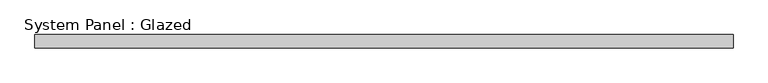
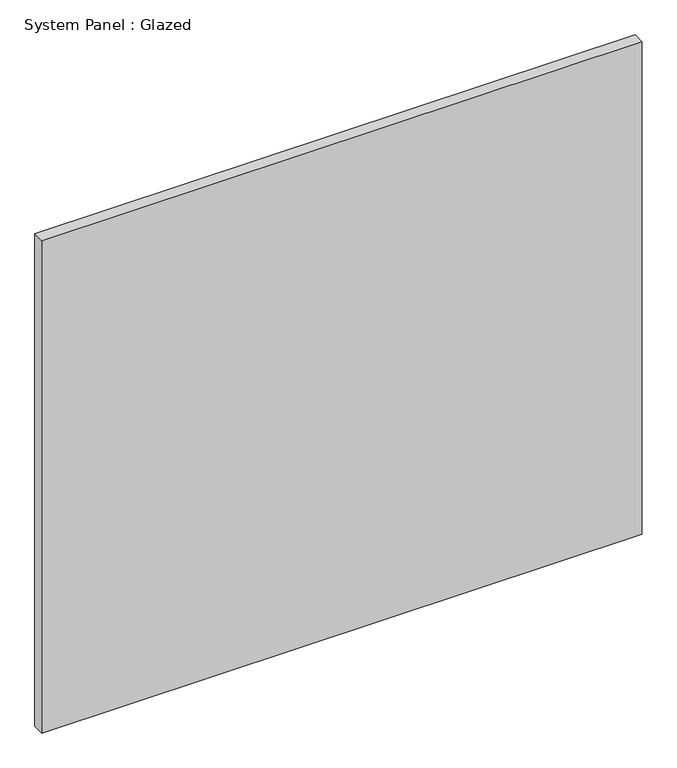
"""IFC4 building model written with IfcOpenShell, lengths in millimetres: plate geometry, System Panel : Glazed."""

import ifcopenshell
import ifcopenshell.guid

model = None  # the IFC model being written
_history = None  # IfcOwnerHistory: only IFC2X3 demands one
_inside = {}  # id of a spatial element -> (the spatial element, [elements in it])
_under = {}  # id of a project, library or spatial element -> (it, [spatial elements below it])
_declared = {}  # id of a project -> (the project, [libraries it declares])
_typed = {}  # id of a type object -> (the type object, [elements of that type])
_made_of = {}  # id of a material, layer set ... -> (it, [elements and type objects made of it])


def new_model(schema):
    """Start an empty IFC model of exactly this schema.

    Asked for "IFC4X3", IfcOpenShell would pick the latest addendum, in which some entities
    have other attributes; the version numbers below select the first issue.
    IFC2X3 requires an IfcOwnerHistory on every rooted entity: one is made here for all.
    """
    global model, _history
    if schema == "IFC4X3":
        model = ifcopenshell.file(schema_version=(4, 3, 0, 0))
    else:
        model = ifcopenshell.file(schema=schema)
    _inside.clear()
    _under.clear()
    _declared.clear()
    _typed.clear()
    _made_of.clear()
    _history = None
    if model.schema == "IFC2X3":
        org = make("IfcOrganization", Name="unknown")
        user = make(
            "IfcPersonAndOrganization",
            ThePerson=make("IfcPerson", FamilyName="unknown"),
            TheOrganization=org,
        )
        app = make(
            "IfcApplication",
            ApplicationDeveloper=org,
            Version="unknown",
            ApplicationFullName="unknown",
            ApplicationIdentifier="unknown",
        )
        _history = make(
            "IfcOwnerHistory",
            OwningUser=user,
            OwningApplication=app,
            ChangeAction="ADDED",
            CreationDate=0,
        )
    return model


def make(cls, **values):
    """One entity of the class cls with the attributes given. An attribute that is None is left unset."""
    return model.create_entity(
        cls, **{name: value for name, value in values.items() if value is not None}
    )


def rooted(cls, **values):
    """An entity with a GlobalId (a new one), such as an element, a storey or a relation."""
    return make(cls, GlobalId=ifcopenshell.guid.new(), OwnerHistory=_history, **values)


def si_unit(unit_type, name, prefix=None):
    """IfcSIUnit, for example si_unit("LENGTHUNIT", "METRE", prefix="MILLI")."""
    return make("IfcSIUnit", UnitType=unit_type, Prefix=prefix, Name=name)


def assignment(units):
    """IfcUnitAssignment: the units of a project."""
    return None if units is None else make("IfcUnitAssignment", Units=units)


def point(xyz):
    """IfcCartesianPoint."""
    return None if xyz is None else make("IfcCartesianPoint", Coordinates=xyz)


def direction(xyz):
    """IfcDirection."""
    return None if xyz is None else make("IfcDirection", DirectionRatios=xyz)


def frame(location, z_axis=None, x_axis=None):
    """IfcAxis2Placement3D, a coordinate frame: its origin and axes. An axis left out is left unset."""
    return make(
        "IfcAxis2Placement3D",
        Location=point(location),
        Axis=direction(z_axis),
        RefDirection=direction(x_axis),
    )


def origin():
    """The frame at (0, 0, 0) with its axes left unset."""
    return frame((0.0, 0.0, 0.0))


def origin_with_axes():
    """The frame at (0, 0, 0) with the z axis (0, 0, 1) and the x axis (1, 0, 0) written out."""
    return frame((0.0, 0.0, 0.0), z_axis=(0.0, 0.0, 1.0), x_axis=(1.0, 0.0, 0.0))


def place(relative_to, where):
    """IfcLocalPlacement: puts the frame where relative to a parent placement (None: the world)."""
    return make(
        "IfcLocalPlacement", PlacementRelTo=relative_to, RelativePlacement=where
    )


def context(
    kind, dimensions, precision=None, world=None, true_north=None, identifier=None
):
    """IfcGeometricRepresentationContext, for example the 3D "Model" context."""
    return make(
        "IfcGeometricRepresentationContext",
        ContextIdentifier=identifier,
        ContextType=kind,
        CoordinateSpaceDimension=dimensions,
        Precision=precision,
        WorldCoordinateSystem=world,
        TrueNorth=true_north,
    )


def project(units=None, contexts=None):
    """IfcProject with its units and contexts."""
    return rooted(
        "IfcProject",
        Name="project",
        RepresentationContexts=contexts,
        UnitsInContext=assignment(units),
    )


def spatial(cls, under=None, at=None, **own):
    """A site, building, storey or space (cls), placed at a placement, below another one or the project."""
    s = rooted(cls, ObjectPlacement=at, **own)
    if under is not None:
        _under.setdefault(under.id(), (under, []))[1].append(s)
    return s


def polyline(points):
    """IfcPolyline through the points."""
    return make("IfcPolyline", Points=[point(p) for p in points])


def outline(outer, holes=None, kind="AREA"):
    """IfcArbitraryClosedProfileDef: a profile drawn as a closed curve; with holes, ...WithVoids."""
    if holes is None:
        return make("IfcArbitraryClosedProfileDef", ProfileType=kind, OuterCurve=outer)
    return make(
        "IfcArbitraryProfileDefWithVoids",
        ProfileType=kind,
        OuterCurve=outer,
        InnerCurves=holes,
    )


def extrude(swept, where, along, depth):
    """IfcExtrudedAreaSolid: the profile swept, set in the frame where, extruded along a direction by depth."""
    return make(
        "IfcExtrudedAreaSolid",
        SweptArea=swept,
        Position=where,
        ExtrudedDirection=direction(along),
        Depth=depth,
    )


def shape(context_of_items, identifier, shape_type, items):
    """IfcShapeRepresentation: the items that make up one representation, for example the "Body"."""
    return make(
        "IfcShapeRepresentation",
        ContextOfItems=context_of_items,
        RepresentationIdentifier=identifier,
        RepresentationType=shape_type,
        Items=items,
    )


def source(mapping_origin, context_of_items, identifier, shape_type, items):
    """IfcRepresentationMap: a shape defined once, which mapped items show again and again."""
    return make(
        "IfcRepresentationMap",
        MappingOrigin=mapping_origin,
        MappedRepresentation=shape(context_of_items, identifier, shape_type, items),
    )


def transform(
    local_origin,
    x_axis=None,
    y_axis=None,
    z_axis=None,
    scale=None,
    scale2=None,
    scale3=None,
    uniform=True,
):
    """IfcCartesianTransformationOperator3D, or its non-uniform kind. x_axis, y_axis, z_axis: its Axis1, 2, 3."""
    if uniform:
        return make(
            "IfcCartesianTransformationOperator3D",
            Axis1=direction(x_axis),
            Axis2=direction(y_axis),
            LocalOrigin=point(local_origin),
            Scale=scale,
            Axis3=direction(z_axis),
        )
    return make(
        "IfcCartesianTransformationOperator3DnonUniform",
        Axis1=direction(x_axis),
        Axis2=direction(y_axis),
        LocalOrigin=point(local_origin),
        Scale=scale,
        Axis3=direction(z_axis),
        Scale2=scale2,
        Scale3=scale3,
    )


def mapped(mapping_source, mapping_target):
    """IfcMappedItem: shows the shape of a source again, moved by a transform."""
    return make(
        "IfcMappedItem", MappingSource=mapping_source, MappingTarget=mapping_target
    )


def made_of(thing, what):
    """Note that an element or type object is made of a material, layer set ...; save() writes the relation."""
    if what is not None:
        _made_of.setdefault(what.id(), (what, []))[1].append(thing)
    return thing


def element(
    cls,
    number,
    at=None,
    inside=None,
    cuts=None,
    type_object=None,
    material=None,
    context=None,
    identifier="Body",
    shape_type=None,
    held_by="IfcProductDefinitionShape",
    body=None,
    shapes=None,
    **own,
):
    """One element of the class cls, such as IfcWall. Its Tag is "e" and its number.

    at: its placement. inside: the storey or other place that contains it. cuts: it is an
    opening in that element (IfcRelVoidsElement). A single representation is given by context,
    identifier, shape_type and body (its items); several are given by shapes. held_by: the class
    of the entity that holds the representations. save() writes the other relations.
    """
    e = rooted(cls, Tag="e%d" % number, ObjectPlacement=at, **own)
    if body is not None:
        shapes = [shape(context, identifier, shape_type, body)]
    if shapes is not None:
        e.Representation = make(held_by, Representations=shapes)
    if inside is not None:
        _inside.setdefault(inside.id(), (inside, []))[1].append(e)
    if cuts is not None:
        rooted(
            "IfcRelVoidsElement", RelatingBuildingElement=cuts, RelatedOpeningElement=e
        )
    if type_object is not None:
        _typed.setdefault(type_object.id(), (type_object, []))[1].append(e)
    return made_of(e, material)


def aggregate(whole, parts):
    """IfcRelAggregates: a whole, such as a stair, and the parts it consists of."""
    return rooted("IfcRelAggregates", RelatingObject=whole, RelatedObjects=parts)


def save(model, path):
    """Write the relations noted so far, then the file.

    IfcRelAggregates (storeys below a building ...), IfcRelContainedInSpatialStructure (elements
    in a storey), IfcRelDefinesByType, IfcRelAssociatesMaterial and IfcRelDeclares: one each for
    every whole, place, type object, material and project.
    """
    for whole, parts in _under.values():
        aggregate(whole, parts)
    for where, things in _inside.values():
        rooted(
            "IfcRelContainedInSpatialStructure",
            RelatedElements=things,
            RelatingStructure=where,
        )
    for kind, things in _typed.values():
        rooted("IfcRelDefinesByType", RelatedObjects=things, RelatingType=kind)
    for what, things in _made_of.values():
        rooted("IfcRelAssociatesMaterial", RelatedObjects=things, RelatingMaterial=what)
    for by, libraries in _declared.values():
        rooted("IfcRelDeclares", RelatingContext=by, RelatedDefinitions=libraries)
    model.write(path)


def system_panel_glazed_95237d86(model_context):
    return source(origin(), model_context, "Body", "SweptSolid", [
        extrude(outline(polyline([(656.062298, 19.05), (-656.062298, 19.05), (-656.062298, 44.45), (656.062298, 44.45), (656.062298, 19.05)])), origin_with_axes(), (0.0, 0.0, 1.0), 1137.4164677),
    ])


if __name__ == "__main__":
    model = new_model("IFC4")
    model_context = context("Model", 3, world=origin())
    ifc_project = project(units=[si_unit("LENGTHUNIT", "METRE", prefix="MILLI")], contexts=[model_context])
    site = spatial("IfcSite", under=ifc_project)
    building = spatial("IfcBuilding", under=site)
    placement = place(None, origin())
    system_panel_glazed_shape = system_panel_glazed_95237d86(model_context)
    element("IfcPlate", 1, ObjectType="System Panel : Glazed", at=placement, inside=building, context=model_context, shape_type="MappedRepresentation", body=[
        mapped(system_panel_glazed_shape, transform((0.0, 0.0, 0.0), x_axis=(1.0, 0.0, 0.0), y_axis=(0.0, 1.0, 0.0), z_axis=(0.0, 0.0, 1.0))),
    ])
    save(model, "model.ifc")
